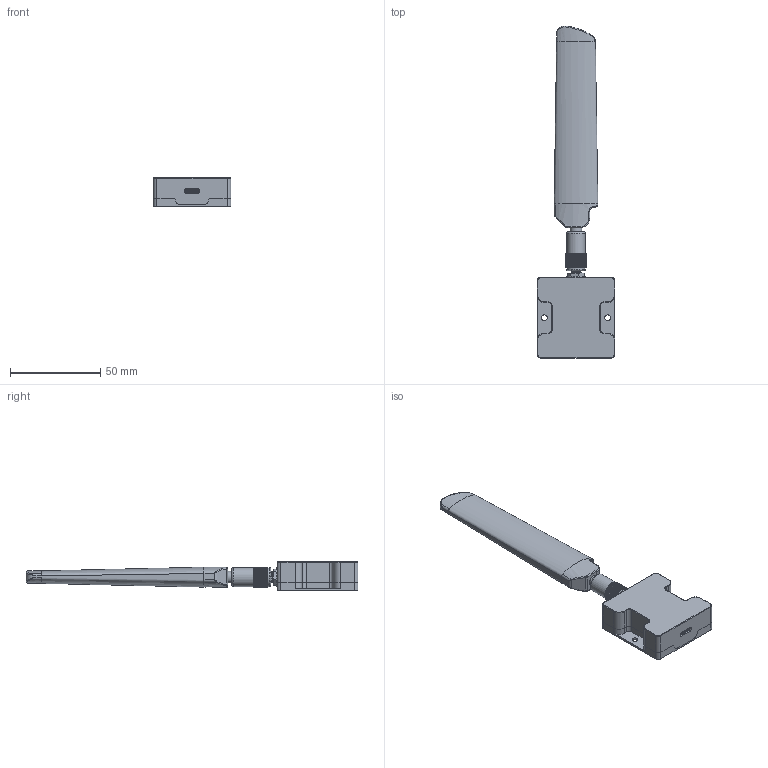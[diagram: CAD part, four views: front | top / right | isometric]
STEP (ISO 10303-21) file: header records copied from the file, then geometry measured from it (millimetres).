
FILE_DESCRIPTION(/* description */ (''),/* implementation_level */ '2;1');
FILE_NAME(/* name */ 'C:\Users\cda1\Desktop\Desktopradio - 101010\DIGIX\DIGIX-101010_website\3d_desktopradio - DIGIX - 101010.stp',/* time_stamp */ '2024-05-10T09:35:47+02:00',/* author */ ('cda1'),/* organization */ (''),/* preprocessor_version */ 'ST-DEVELOPER v16.13',/* originating_system */ 'Autodesk Inventor 2018',/* authorisation */ '');
FILE_SCHEMA (('AUTOMOTIVE_DESIGN { 1 0 10303 214 3 1 1 }'));
Products named in the file (1): 3d_desktopradio - DIGIX - dummy
Bounding box: 43 x 184.07 x 16 mm (x, y, z)
Volume: 31832.9 mm3; surface area: 22883.6 mm2
Topology: 15 solids, 15 shells, 2377 faces, 6417 edges, 4088 vertices
Faces by surface type: plane 1247, cylinder 829, bspline 164, torus 59, cone 46, sphere 32
Full cylindrical faces by diameter (mm): 0.313 x6, 0.4 x16, 0.5 x5, 0.8 x1, 1.65 x1, 2.013 x4, 2.5 x4, 2.7 x4, 3.2 x2, 4.15 x1, 4.2 x4, 4.7 x1, 5 x4, 5.4 x10, 6.4 x1, 6.58 x1, 6.6 x2, 9.84 x1, 10.2 x1, 10.5 x2, 11 x1
Entity records: 93576 total; most frequent: CARTESIAN_POINT 32267, ORIENTED_EDGE 12542, DIRECTION 11894, EDGE_CURVE 6271, VERTEX_POINT 4065, LINE 4020, VECTOR 4020, AXIS2_PLACEMENT_3D 3937
